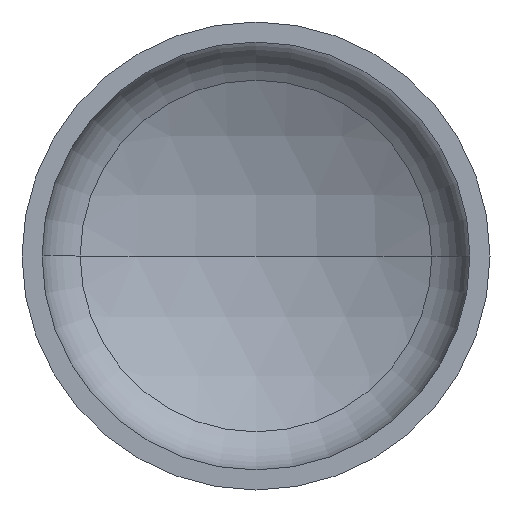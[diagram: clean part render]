
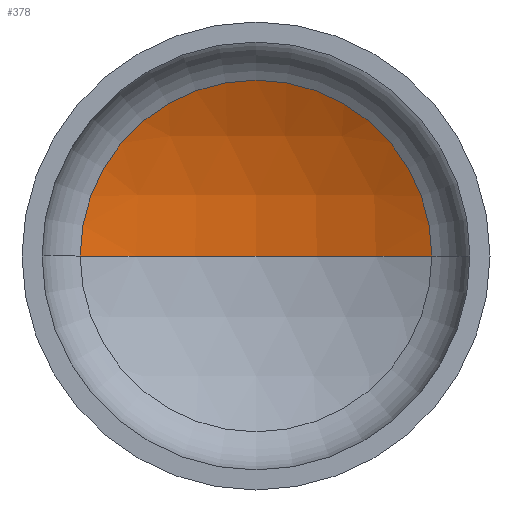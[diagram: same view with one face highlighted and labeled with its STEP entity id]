
A CAD part, front view. The second image highlights one B-rep face of the part: STEP entity #378.
In plain terms, the highlighted spherical face has radius 1120 mm.
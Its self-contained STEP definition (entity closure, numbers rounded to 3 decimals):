
#9 = EDGE_LOOP ( 'NONE', ( #47, #13, #36 ) ) ;
#13 = ORIENTED_EDGE ( 'NONE', *, *, #271, .T. ) ;
#20 = AXIS2_PLACEMENT_3D ( 'NONE', #169, #305, #408 ) ;
#24 = VERTEX_POINT ( 'NONE', #364 ) ;
#33 = DIRECTION ( 'NONE',  ( 1., 0., 0. ) ) ;
#36 = ORIENTED_EDGE ( 'NONE', *, *, #269, .T. ) ;
#41 = DIRECTION ( 'NONE',  ( 0., 0., 1. ) ) ;
#47 = ORIENTED_EDGE ( 'NONE', *, *, #274, .F. ) ;
#63 = VERTEX_POINT ( 'NONE', #241 ) ;
#111 = CIRCLE ( 'NONE', #128, 1120. ) ;
#128 = AXIS2_PLACEMENT_3D ( 'NONE', #159, #41, #33 ) ;
#132 = SPHERICAL_SURFACE ( 'NONE', #20, 1120. ) ;
#134 = AXIS2_PLACEMENT_3D ( 'NONE', #226, #225, #223 ) ;
#154 = AXIS2_PLACEMENT_3D ( 'NONE', #246, #245, #275 ) ;
#159 = CARTESIAN_POINT ( 'NONE',  ( 0., -678.999, 0. ) ) ;
#169 = CARTESIAN_POINT ( 'NONE',  ( 0., -678.999, 0. ) ) ;
#223 = DIRECTION ( 'NONE',  ( -1., 0., 0. ) ) ;
#225 = DIRECTION ( 'NONE',  ( 0., 0., -1. ) ) ;
#226 = CARTESIAN_POINT ( 'NONE',  ( 0., -678.999, 0. ) ) ;
#241 = CARTESIAN_POINT ( 'NONE',  ( 0., 441.001, 0. ) ) ;
#245 = DIRECTION ( 'NONE',  ( 0., -1., 0. ) ) ;
#246 = CARTESIAN_POINT ( 'NONE',  ( 0., 309.818, 0. ) ) ;
#250 = FACE_OUTER_BOUND ( 'NONE', #9, .T. ) ;
#269 = EDGE_CURVE ( 'NONE', #369, #24, #273, .T. ) ;
#271 = EDGE_CURVE ( 'NONE', #63, #369, #392, .T. ) ;
#273 = CIRCLE ( 'NONE', #154, 525.967 ) ;
#274 = EDGE_CURVE ( 'NONE', #63, #24, #111, .T. ) ;
#275 = DIRECTION ( 'NONE',  ( 1., 0., 0. ) ) ;
#305 = DIRECTION ( 'NONE',  ( 0., 0., -1. ) ) ;
#338 = CARTESIAN_POINT ( 'NONE',  ( 525.967, 309.818, 0. ) ) ;
#364 = CARTESIAN_POINT ( 'NONE',  ( -525.967, 309.818, 0. ) ) ;
#369 = VERTEX_POINT ( 'NONE', #338 ) ;
#378 = ADVANCED_FACE ( 'NONE', ( #250 ), #132, .F. ) ;
#392 = CIRCLE ( 'NONE', #134, 1120. ) ;
#408 = DIRECTION ( 'NONE',  ( -1., 0., 0. ) ) ;
